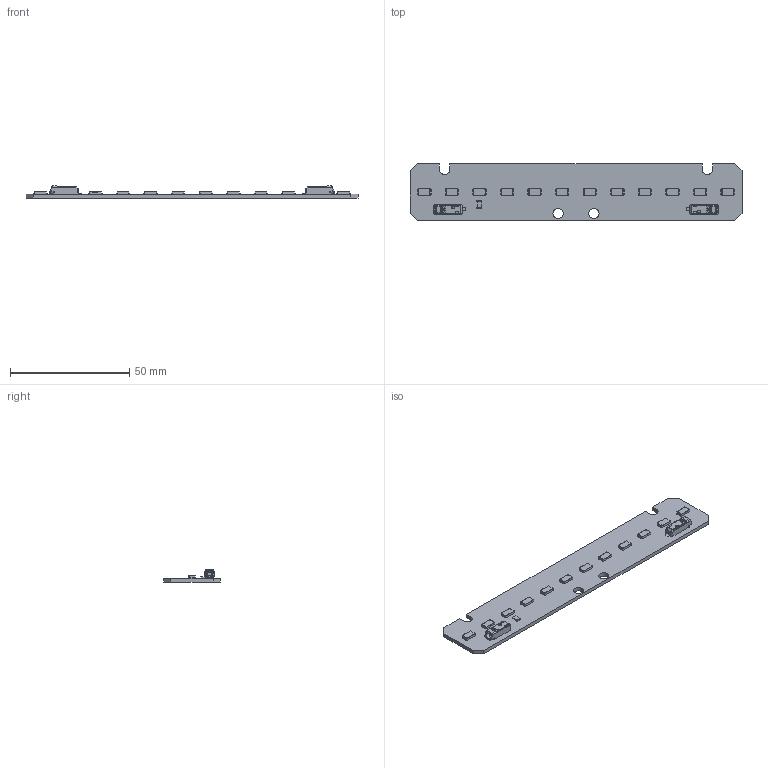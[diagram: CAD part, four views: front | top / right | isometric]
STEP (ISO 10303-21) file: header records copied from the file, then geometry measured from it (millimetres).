
FILE_DESCRIPTION((''),'2;1');
FILE_NAME('16206869_LLE-G4_24X140_650LM','2016-07-01T',('bernhard.fink'),(''),'PRO/ENGINEER BY PARAMETRIC TECHNOLOGY CORPORATION, 2015200','PRO/ENGINEER BY PARAMETRIC TECHNOLOGY CORPORATION, 2015200','');
FILE_SCHEMA(('AUTOMOTIVE_DESIGN { 1 0 10303 214 1 1 1 1 }'));
Length unit declared in the file: millimetre
Products named in the file (1): 16206869_LLE-G4_24X140_650LM
Bounding box: 139 x 23.6 x 5.1 mm (x, y, z)
Volume: 5686.2 mm3; surface area: 7577.6 mm2
Topology: 1 solids, 1 shells, 992 faces, 2668 edges, 1678 vertices
Faces by surface type: plane 498, cylinder 296, bspline 116, cone 34, revolution 24, torus 12, sphere 12
Entity records: 49502 total; most frequent: CARTESIAN_POINT 11332, ORIENTED_EDGE 5264, DIRECTION 4316, PRESENTATION_STYLE_ASSIGNMENT 3553, STYLED_ITEM 2657, CURVE_STYLE 2656, EDGE_CURVE 2632, VERTEX_POINT 1678
